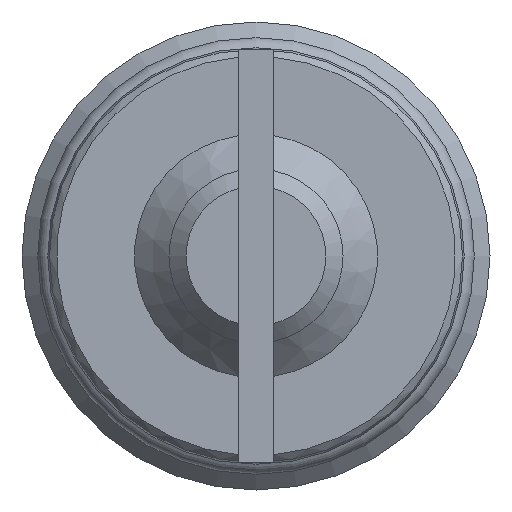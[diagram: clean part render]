
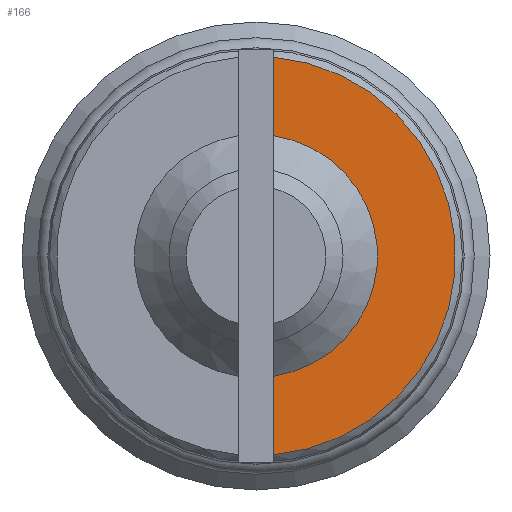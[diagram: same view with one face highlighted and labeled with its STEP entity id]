
A CAD part, left-side view. The second image highlights one B-rep face of the part: STEP entity #166.
In plain terms, the highlighted planar face has unit normal (-1, 0, 0).
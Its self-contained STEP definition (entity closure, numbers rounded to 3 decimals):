
#166 = ADVANCED_FACE( '', ( #349 ), #350, .F. );
#349 = FACE_OUTER_BOUND( '', #530, .T. );
#350 = PLANE( '', #531 );
#530 = EDGE_LOOP( '', ( #935, #936, #937, #938 ) );
#531 = AXIS2_PLACEMENT_3D( '', #939, #940, #941 );
#935 = ORIENTED_EDGE( '', *, *, #1074, .F. );
#936 = ORIENTED_EDGE( '', *, *, #1134, .T. );
#937 = ORIENTED_EDGE( '', *, *, #1144, .T. );
#938 = ORIENTED_EDGE( '', *, *, #1136, .T. );
#939 = CARTESIAN_POINT( '', ( 0., 0., 0. ) );
#940 = DIRECTION( '', ( 1., 0., 0. ) );
#941 = DIRECTION( '', ( 0., 0., -1. ) );
#1074 = EDGE_CURVE( '', #1292, #1290, #1294, .T. );
#1134 = EDGE_CURVE( '', #1292, #1371, #1374, .T. );
#1136 = EDGE_CURVE( '', #1376, #1290, #1377, .T. );
#1144 = EDGE_CURVE( '', #1371, #1376, #1386, .T. );
#1290 = VERTEX_POINT( '', #1596 );
#1292 = VERTEX_POINT( '', #1598 );
#1294 = CIRCLE( '', #1600, 5.8 );
#1371 = VERTEX_POINT( '', #1714 );
#1374 = LINE( '', #1720, #1721 );
#1376 = VERTEX_POINT( '', #1724 );
#1377 = LINE( '', #1725, #1726 );
#1386 = CIRCLE( '', #1740, 3.53 );
#1596 = CARTESIAN_POINT( '', ( 0., -0.5, -5.778 ) );
#1598 = CARTESIAN_POINT( '', ( 0., -0.5, 5.778 ) );
#1600 = AXIS2_PLACEMENT_3D( '', #1852, #1853, #1854 );
#1714 = CARTESIAN_POINT( '', ( 0., -0.5, 3.494 ) );
#1720 = CARTESIAN_POINT( '', ( 0., -0.5, 6. ) );
#1721 = VECTOR( '', #1896, 1000. );
#1724 = CARTESIAN_POINT( '', ( 0., -0.5, -3.494 ) );
#1725 = CARTESIAN_POINT( '', ( 0., -0.5, 6. ) );
#1726 = VECTOR( '', #1898, 1000. );
#1740 = AXIS2_PLACEMENT_3D( '', #1904, #1905, #1906 );
#1852 = CARTESIAN_POINT( '', ( 0., 0., 0. ) );
#1853 = DIRECTION( '', ( 1., 0., 0. ) );
#1854 = DIRECTION( '', ( 0., 0., -1. ) );
#1896 = DIRECTION( '', ( 0., 0., -1. ) );
#1898 = DIRECTION( '', ( 0., 0., -1. ) );
#1904 = CARTESIAN_POINT( '', ( 0., 0., 0. ) );
#1905 = DIRECTION( '', ( 1., 0., 0. ) );
#1906 = DIRECTION( '', ( 0., 0., -1. ) );
